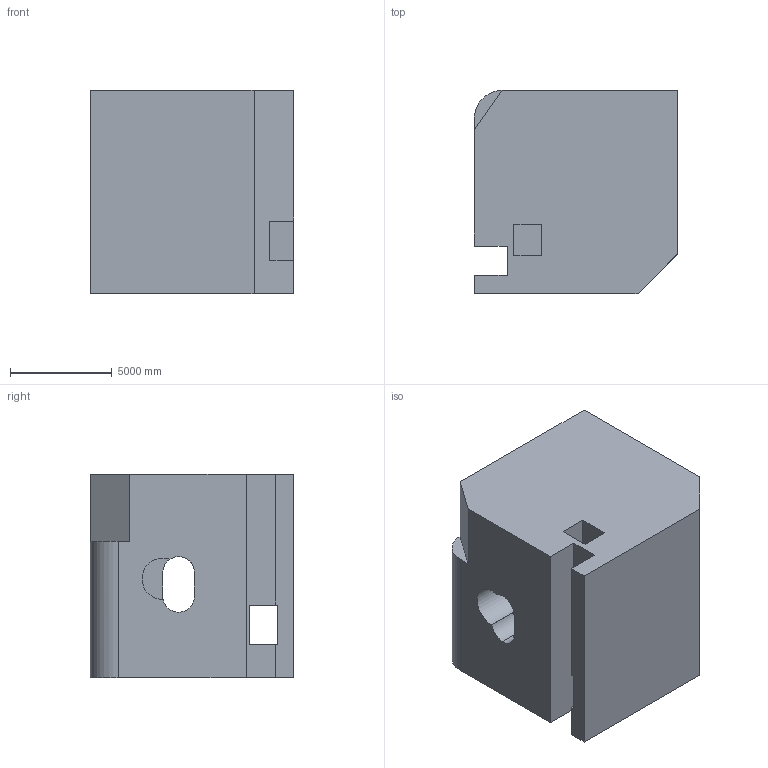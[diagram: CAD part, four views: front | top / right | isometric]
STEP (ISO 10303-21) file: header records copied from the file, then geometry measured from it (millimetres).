
FILE_DESCRIPTION (( 'STEP AP203' ), '1' );
FILE_NAME ('1899.STEP', '2022-08-26T13:33:40', ( 'user' ), ( '' ), 'SwSTEP 2.0', 'SolidWorks 2021', '' );
FILE_SCHEMA (( 'CONFIG_CONTROL_DESIGN' ));
Length unit declared in the file: centimetre
Products named in the file (1): 1899
Bounding box: 10000 x 10000 x 10000 mm (x, y, z)
Volume: 868827430881.9 mm3; surface area: 745118886.1 mm2
Topology: 1 solids, 1 shells, 35 faces, 102 edges, 68 vertices
Faces by surface type: plane 28, cylinder 7
Entity records: 1238 total; most frequent: CARTESIAN_POINT 206, ORIENTED_EDGE 204, DIRECTION 191, EDGE_CURVE 102, VECTOR 85, LINE 85, VERTEX_POINT 68, AXIS2_PLACEMENT_3D 53
